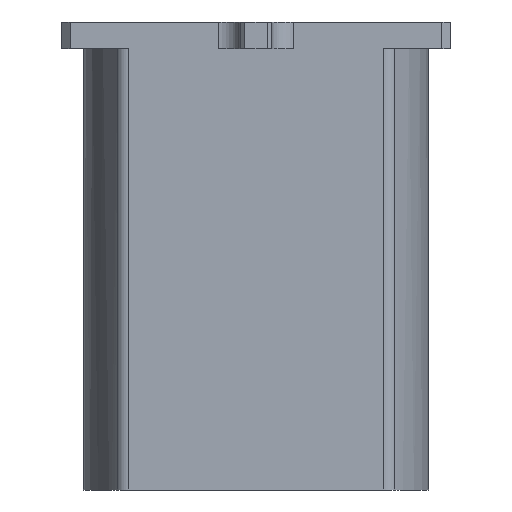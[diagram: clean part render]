
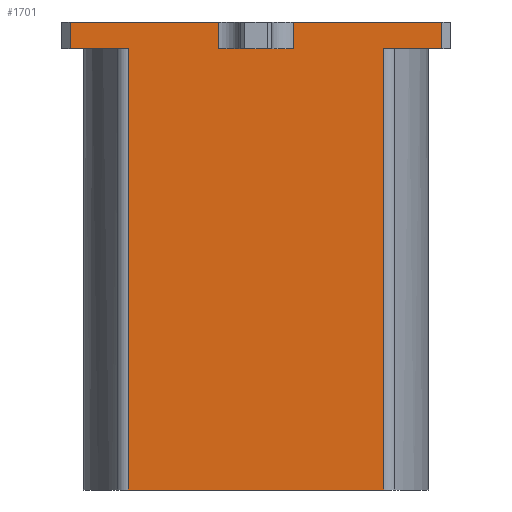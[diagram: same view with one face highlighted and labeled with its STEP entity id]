
A CAD part, front view. The second image highlights one B-rep face of the part: STEP entity #1701.
In plain terms, the highlighted planar face has unit normal (0, -1, 0).
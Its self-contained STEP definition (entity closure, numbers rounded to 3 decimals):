
#683=CARTESIAN_POINT('Vertex',(-14.437,-12.25,13.166)) ;
#686=CARTESIAN_POINT('Line Origine',(-14.437,-12.25,39.358)) ;
#690=CARTESIAN_POINT('Vertex',(-14.437,-12.25,63.05)) ;
#1463=CARTESIAN_POINT('Line Origine',(-4.25,-12.25,39.608)) ;
#1467=CARTESIAN_POINT('Vertex',(-4.25,-12.25,63.05)) ;
#1469=CARTESIAN_POINT('Vertex',(-4.25,-12.25,66.05)) ;
#1616=CARTESIAN_POINT('Axis2P3D Location',(0.,-12.25,13.166)) ;
#1621=CARTESIAN_POINT('Line Origine',(-12.625,-12.25,66.05)) ;
#1625=CARTESIAN_POINT('Vertex',(-21.,-12.25,66.05)) ;
#1628=CARTESIAN_POINT('Line Origine',(-21.,-12.25,64.55)) ;
#1632=CARTESIAN_POINT('Vertex',(-21.,-12.25,63.05)) ;
#1635=CARTESIAN_POINT('Line Origine',(-17.719,-12.25,63.05)) ;
#1640=CARTESIAN_POINT('Line Origine',(0.,-12.25,13.166)) ;
#1644=CARTESIAN_POINT('Vertex',(14.437,-12.25,13.166)) ;
#1647=CARTESIAN_POINT('Line Origine',(14.437,-12.25,38.108)) ;
#1651=CARTESIAN_POINT('Vertex',(14.437,-12.25,63.05)) ;
#1654=CARTESIAN_POINT('Line Origine',(17.719,-12.25,63.05)) ;
#1658=CARTESIAN_POINT('Vertex',(21.,-12.25,63.05)) ;
#1661=CARTESIAN_POINT('Line Origine',(21.,-12.25,64.55)) ;
#1665=CARTESIAN_POINT('Vertex',(21.,-12.25,66.05)) ;
#1668=CARTESIAN_POINT('Line Origine',(12.625,-12.25,66.05)) ;
#1672=CARTESIAN_POINT('Vertex',(4.25,-12.25,66.05)) ;
#1675=CARTESIAN_POINT('Line Origine',(4.25,-12.25,64.55)) ;
#1679=CARTESIAN_POINT('Vertex',(4.25,-12.25,63.05)) ;
#1682=CARTESIAN_POINT('Line Origine',(0.,-12.25,63.05)) ;
#688=VECTOR('Line Direction',#687,1.) ;
#1465=VECTOR('Line Direction',#1464,1.) ;
#1623=VECTOR('Line Direction',#1622,1.) ;
#1630=VECTOR('Line Direction',#1629,1.) ;
#1637=VECTOR('Line Direction',#1636,1.) ;
#1642=VECTOR('Line Direction',#1641,1.) ;
#1649=VECTOR('Line Direction',#1648,1.) ;
#1656=VECTOR('Line Direction',#1655,1.) ;
#1663=VECTOR('Line Direction',#1662,1.) ;
#1670=VECTOR('Line Direction',#1669,1.) ;
#1677=VECTOR('Line Direction',#1676,1.) ;
#1684=VECTOR('Line Direction',#1683,1.) ;
#687=DIRECTION('Vector Direction',(0.,0.,1.)) ;
#1464=DIRECTION('Vector Direction',(0.,0.,-1.)) ;
#1617=DIRECTION('Axis2P3D Direction',(0.,-1.,0.)) ;
#1618=DIRECTION('Axis2P3D XDirection',(0.,0.,1.)) ;
#1622=DIRECTION('Vector Direction',(1.,0.,0.)) ;
#1629=DIRECTION('Vector Direction',(0.,0.,-1.)) ;
#1636=DIRECTION('Vector Direction',(-1.,0.,0.)) ;
#1641=DIRECTION('Vector Direction',(-1.,0.,0.)) ;
#1648=DIRECTION('Vector Direction',(0.,0.,1.)) ;
#1655=DIRECTION('Vector Direction',(-1.,0.,0.)) ;
#1662=DIRECTION('Vector Direction',(0.,0.,-1.)) ;
#1669=DIRECTION('Vector Direction',(1.,0.,0.)) ;
#1676=DIRECTION('Vector Direction',(0.,0.,-1.)) ;
#1683=DIRECTION('Vector Direction',(-1.,0.,0.)) ;
#1619=AXIS2_PLACEMENT_3D('Plane Axis2P3D',#1616,#1617,#1618) ;
#689=LINE('Line',#686,#688) ;
#1466=LINE('Line',#1463,#1465) ;
#1624=LINE('Line',#1621,#1623) ;
#1631=LINE('Line',#1628,#1630) ;
#1638=LINE('Line',#1635,#1637) ;
#1643=LINE('Line',#1640,#1642) ;
#1650=LINE('Line',#1647,#1649) ;
#1657=LINE('Line',#1654,#1656) ;
#1664=LINE('Line',#1661,#1663) ;
#1671=LINE('Line',#1668,#1670) ;
#1678=LINE('Line',#1675,#1677) ;
#1685=LINE('Line',#1682,#1684) ;
#1620=PLANE('',#1619) ;
#692=EDGE_CURVE('',#691,#684,#689,.F.) ;
#1471=EDGE_CURVE('',#1468,#1470,#1466,.F.) ;
#1627=EDGE_CURVE('',#1626,#1470,#1624,.T.) ;
#1634=EDGE_CURVE('',#1626,#1633,#1631,.T.) ;
#1639=EDGE_CURVE('',#1633,#691,#1638,.F.) ;
#1646=EDGE_CURVE('',#684,#1645,#1643,.F.) ;
#1653=EDGE_CURVE('',#1652,#1645,#1650,.F.) ;
#1660=EDGE_CURVE('',#1659,#1652,#1657,.T.) ;
#1667=EDGE_CURVE('',#1666,#1659,#1664,.T.) ;
#1674=EDGE_CURVE('',#1666,#1673,#1671,.F.) ;
#1681=EDGE_CURVE('',#1680,#1673,#1678,.F.) ;
#1686=EDGE_CURVE('',#1468,#1680,#1685,.F.) ;
#1688=ORIENTED_EDGE('',*,*,#1627,.F.) ;
#1689=ORIENTED_EDGE('',*,*,#1634,.T.) ;
#1690=ORIENTED_EDGE('',*,*,#1639,.T.) ;
#1691=ORIENTED_EDGE('',*,*,#692,.T.) ;
#1692=ORIENTED_EDGE('',*,*,#1646,.T.) ;
#1693=ORIENTED_EDGE('',*,*,#1653,.F.) ;
#1694=ORIENTED_EDGE('',*,*,#1660,.F.) ;
#1695=ORIENTED_EDGE('',*,*,#1667,.F.) ;
#1696=ORIENTED_EDGE('',*,*,#1674,.T.) ;
#1697=ORIENTED_EDGE('',*,*,#1681,.F.) ;
#1698=ORIENTED_EDGE('',*,*,#1686,.F.) ;
#1699=ORIENTED_EDGE('',*,*,#1471,.T.) ;
#1687=EDGE_LOOP('',(#1688,#1689,#1690,#1691,#1692,#1693,#1694,#1695,#1696,#1697,#1698,#1699)) ;
#684=VERTEX_POINT('',#683) ;
#691=VERTEX_POINT('',#690) ;
#1468=VERTEX_POINT('',#1467) ;
#1470=VERTEX_POINT('',#1469) ;
#1626=VERTEX_POINT('',#1625) ;
#1633=VERTEX_POINT('',#1632) ;
#1645=VERTEX_POINT('',#1644) ;
#1652=VERTEX_POINT('',#1651) ;
#1659=VERTEX_POINT('',#1658) ;
#1666=VERTEX_POINT('',#1665) ;
#1673=VERTEX_POINT('',#1672) ;
#1680=VERTEX_POINT('',#1679) ;
#1701=ADVANCED_FACE('\X2\FF8AFF9FFF70FF82\X0\ \X2\FF8EFF9EFF83FF9EFF68FF70\X0\',(#1700),#1620,.T.) ;
#1700=FACE_OUTER_BOUND('',#1687,.T.) ;
